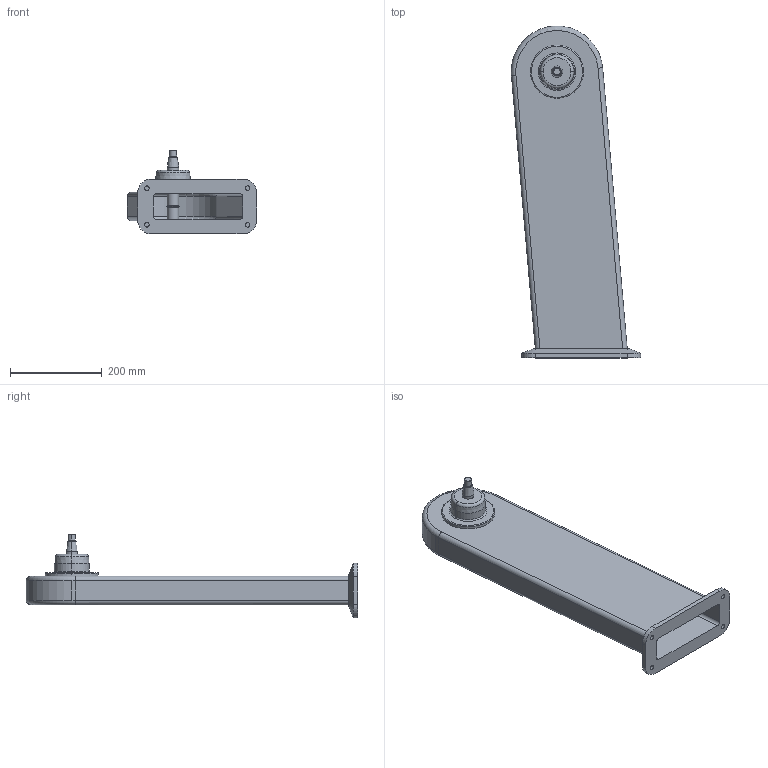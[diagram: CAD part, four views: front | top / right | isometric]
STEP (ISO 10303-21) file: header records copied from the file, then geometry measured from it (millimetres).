
FILE_DESCRIPTION (( 'STEP AP214' ), '1' );
FILE_NAME ('WP800_H625_-05.STEP', '2014-06-26T12:18:58', ( '' ), ( '' ), 'SwSTEP 2.0', 'SolidWorks 2014', '' );
FILE_SCHEMA (( 'AUTOMOTIVE_DESIGN' ));
Length unit declared in the file: millimetre
Products named in the file (1): WP800_H625_-05
Bounding box: 282.93 x 724.9 x 183.29 mm (x, y, z)
Volume: 1653205 mm3; surface area: 772669.9 mm2
Topology: 1 solids, 1 shells, 90 faces, 196 edges, 118 vertices
Faces by surface type: cylinder 38, plane 26, cone 16, torus 10
Entity records: 2490 total; most frequent: DIRECTION 466, CARTESIAN_POINT 429, ORIENTED_EDGE 392, EDGE_CURVE 196, AXIS2_PLACEMENT_3D 187, VERTEX_POINT 118, EDGE_LOOP 102, CIRCLE 96
